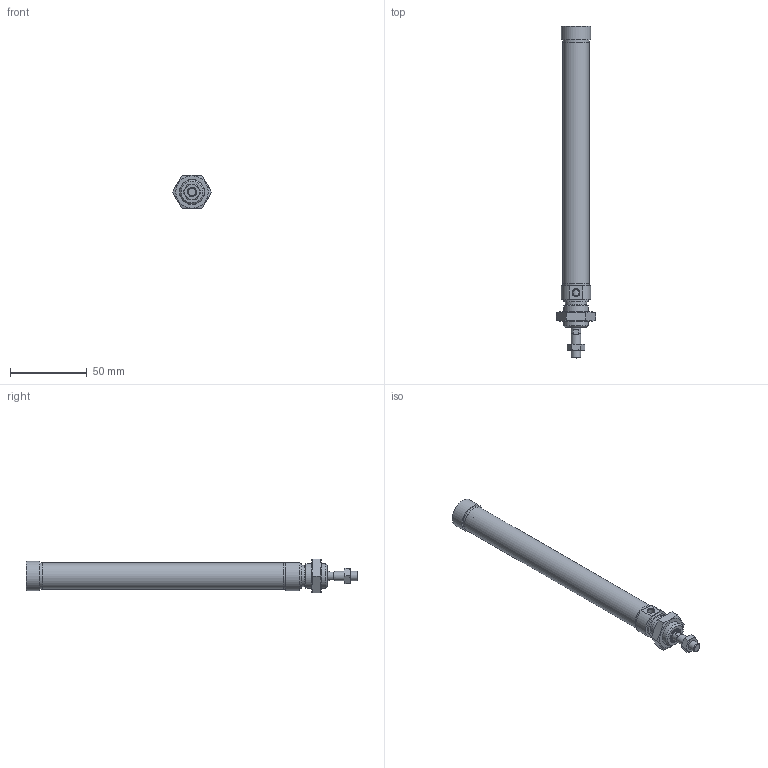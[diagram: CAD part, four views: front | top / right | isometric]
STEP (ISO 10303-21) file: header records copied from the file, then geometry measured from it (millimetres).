
FILE_DESCRIPTION(/* description */ ('Unknown'),/* implementation_level */ '2;1');
FILE_NAME(/* name */ 'RIMA 16_125',/* time_stamp */ '2024-08-30T11:15:33+02:00',/* author */ ('Unknown'),/* organization */ ('Unknown'),/* preprocessor_version */ 'ST-DEVELOPER v16.7',/* originating_system */ 'Solid Edge',/* authorisation */ 'Unknown');
FILE_SCHEMA (('AUTOMOTIVE_DESIGN {1 0 10303 214 3 1 1}'));
Length unit declared in the file: millimetre
Products named in the file (7): RIMA 16_125; Profilrohr; Kolbenstange; Kit_1; Kit_2; Mutter_1; Mutter_2
Assembly tree (6 placements, depth 2):
  RIMA 16_125
    Profilrohr
    Kolbenstange
    Kit_1
    Kit_2
    Mutter_1
    Mutter_2
Bounding box: 25.4 x 216 x 22 mm (x, y, z)
Volume: 26944.9 mm3; surface area: 27351 mm2
Topology: 6 solids, 6 shells, 119 faces, 236 edges, 145 vertices
Faces by surface type: plane 48, cone 36, cylinder 28, torus 7
Full cylindrical faces by diameter (mm): 1.1 x1, 4.12 x2, 4.134 x2, 4.917 x1, 6 x2, 6.5 x1, 7.1 x1, 9 x1, 9.1 x1, 11.1 x1, 11.2 x1, 13.7 x1, 14.376 x1, 14.5 x1, 16 x5, 17.2 x2, 17.27 x1, 19 x1
Entity records: 3594 total; most frequent: CARTESIAN_POINT 516, DIRECTION 482, ORIENTED_EDGE 334, AXIS2_PLACEMENT_3D 226, EDGE_LOOP 200, FACE_BOUND 200, EDGE_CURVE 167, VERTEX_POINT 133
